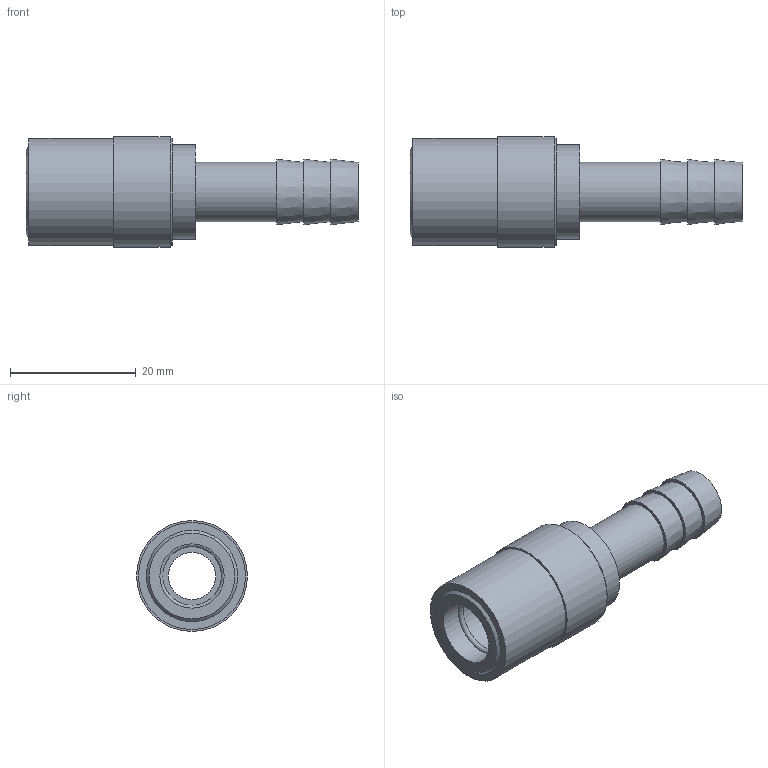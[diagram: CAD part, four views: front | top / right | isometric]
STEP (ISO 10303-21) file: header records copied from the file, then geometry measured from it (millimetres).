
FILE_DESCRIPTION(/* description */ ('STEP AP214'),/* implementation_level */ '2;1');
FILE_NAME(/* name */ 'JS-206-V',/* time_stamp */ '2024-12-19T08:39:35+01:00',/* author */ ('License CC BY-ND 4.0'),/* organization */ ('CADENAS'),/* preprocessor_version */ 'ST-DEVELOPER v19.3',/* originating_system */ 'PARTsolutions',/* authorisation */ ' ');
FILE_SCHEMA (('AUTOMOTIVE_DESIGN {1 0 10303 214 3 1 1}'));
Length unit declared in the file: inch
Products named in the file (1): JS-206-V
Bounding box: 52.77 x 17.62 x 17.62 mm (x, y, z)
Volume: 5201.2 mm3; surface area: 3997.4 mm2
Topology: 1 solids, 1 shells, 23 faces, 36 edges, 23 vertices
Faces by surface type: plane 10, cylinder 7, cone 5, torus 1
Full cylindrical faces by diameter (mm): 7.518 x1, 9.398 x1, 10.211 x2, 14.986 x1, 17.018 x1, 17.617 x1
Entity records: 500 total; most frequent: DIRECTION 94, CARTESIAN_POINT 70, AXIS2_PLACEMENT_3D 47, ORIENTED_EDGE 46, EDGE_LOOP 46, FACE_BOUND 46, EDGE_CURVE 23, VERTEX_POINT 23
